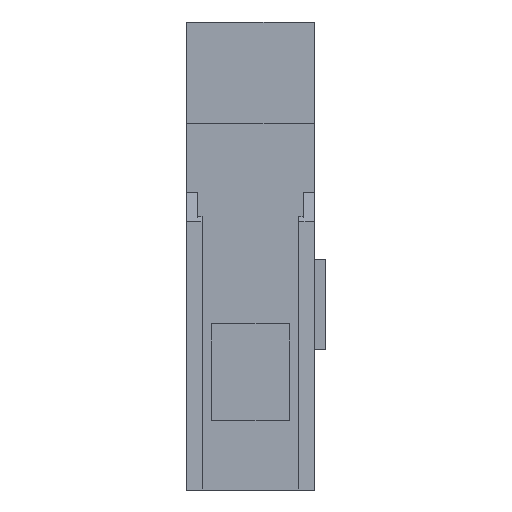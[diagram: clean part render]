
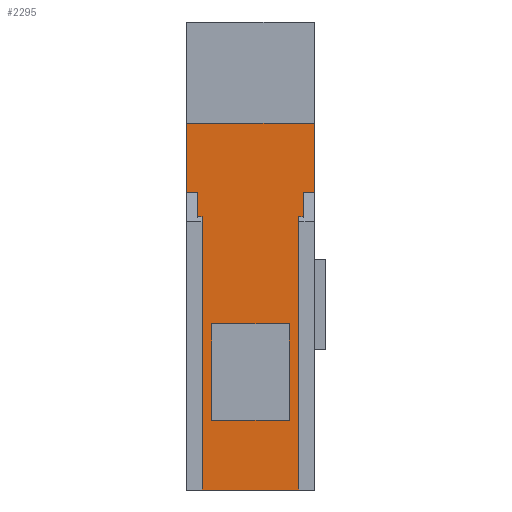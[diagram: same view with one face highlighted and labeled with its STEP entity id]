
A CAD part, front view. The second image highlights one B-rep face of the part: STEP entity #2295.
In plain terms, the highlighted planar face has unit normal (0, -1, 0).
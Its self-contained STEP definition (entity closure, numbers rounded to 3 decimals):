
#8 = VECTOR ( 'NONE', #2726, 1000. ) ;
#9 = ORIENTED_EDGE ( 'NONE', *, *, #2976, .T. ) ;
#97 = FACE_BOUND ( 'NONE', #837, .T. ) ;
#200 = DIRECTION ( 'NONE',  ( 0., -1., 0. ) ) ;
#253 = DIRECTION ( 'NONE',  ( 0., 0., -1. ) ) ;
#262 = ORIENTED_EDGE ( 'NONE', *, *, #793, .T. ) ;
#273 = VERTEX_POINT ( 'NONE', #1612 ) ;
#318 = LINE ( 'NONE', #1744, #3027 ) ;
#366 = CARTESIAN_POINT ( 'NONE',  ( -10.05, -38., 40.5 ) ) ;
#373 = DIRECTION ( 'NONE',  ( 1., 0., 0. ) ) ;
#378 = EDGE_CURVE ( 'NONE', #1263, #2269, #1508, .T. ) ;
#380 = ORIENTED_EDGE ( 'NONE', *, *, #3175, .T. ) ;
#423 = LINE ( 'NONE', #2628, #1257 ) ;
#525 = VERTEX_POINT ( 'NONE', #2949 ) ;
#553 = CARTESIAN_POINT ( 'NONE',  ( -6.65, -38., 9.5 ) ) ;
#582 = LINE ( 'NONE', #1882, #1950 ) ;
#607 = FACE_OUTER_BOUND ( 'NONE', #1517, .T. ) ;
#673 = EDGE_CURVE ( 'NONE', #2993, #2075, #318, .T. ) ;
#731 = VERTEX_POINT ( 'NONE', #2529 ) ;
#742 = LINE ( 'NONE', #553, #2980 ) ;
#793 = EDGE_CURVE ( 'NONE', #1870, #273, #896, .T. ) ;
#837 = EDGE_LOOP ( 'NONE', ( #1801, #2844, #1497, #9 ) ) ;
#838 = CARTESIAN_POINT ( 'NONE',  ( -6.65, -38., 22.6 ) ) ;
#851 = DIRECTION ( 'NONE',  ( 1., 0., 0. ) ) ;
#861 = ORIENTED_EDGE ( 'NONE', *, *, #1581, .T. ) ;
#896 = LINE ( 'NONE', #2819, #1017 ) ;
#908 = EDGE_CURVE ( 'NONE', #525, #2993, #3070, .T. ) ;
#937 = PLANE ( 'NONE',  #2582 ) ;
#944 = VERTEX_POINT ( 'NONE', #2597 ) ;
#949 = VERTEX_POINT ( 'NONE', #366 ) ;
#983 = CARTESIAN_POINT ( 'NONE',  ( 3.85, -38., 9.5 ) ) ;
#1017 = VECTOR ( 'NONE', #1054, 1000. ) ;
#1028 = CARTESIAN_POINT ( 'NONE',  ( 3.85, -38., 22.6 ) ) ;
#1054 = DIRECTION ( 'NONE',  ( 1., 0., 0. ) ) ;
#1149 = ORIENTED_EDGE ( 'NONE', *, *, #3036, .F. ) ;
#1242 = CARTESIAN_POINT ( 'NONE',  ( -10.05, -38., 49.9 ) ) ;
#1257 = VECTOR ( 'NONE', #2321, 1000. ) ;
#1263 = VERTEX_POINT ( 'NONE', #2711 ) ;
#1266 = VERTEX_POINT ( 'NONE', #1490 ) ;
#1317 = VECTOR ( 'NONE', #2928, 1000. ) ;
#1371 = ORIENTED_EDGE ( 'NONE', *, *, #2602, .F. ) ;
#1406 = CARTESIAN_POINT ( 'NONE',  ( -10.05, -38., 40.5 ) ) ;
#1445 = CARTESIAN_POINT ( 'NONE',  ( 5.75, -38., 0. ) ) ;
#1490 = CARTESIAN_POINT ( 'NONE',  ( 7.25, -38., 49.9 ) ) ;
#1497 = ORIENTED_EDGE ( 'NONE', *, *, #1960, .T. ) ;
#1508 = LINE ( 'NONE', #3170, #2243 ) ;
#1517 = EDGE_LOOP ( 'NONE', ( #1371, #1622, #3190, #861, #1149, #3013, #380, #262 ) ) ;
#1519 = CARTESIAN_POINT ( 'NONE',  ( -10.05, -38., 49.9 ) ) ;
#1581 = EDGE_CURVE ( 'NONE', #949, #944, #2096, .T. ) ;
#1596 = CARTESIAN_POINT ( 'NONE',  ( 7.25, -38., 40.5 ) ) ;
#1612 = CARTESIAN_POINT ( 'NONE',  ( 7.25, -38., 40.5 ) ) ;
#1622 = ORIENTED_EDGE ( 'NONE', *, *, #2086, .F. ) ;
#1700 = LINE ( 'NONE', #1519, #2967 ) ;
#1744 = CARTESIAN_POINT ( 'NONE',  ( 3.85, -38., 22.6 ) ) ;
#1762 = DIRECTION ( 'NONE',  ( 1., 0., 0. ) ) ;
#1801 = ORIENTED_EDGE ( 'NONE', *, *, #908, .T. ) ;
#1814 = LINE ( 'NONE', #1406, #1317 ) ;
#1827 = CARTESIAN_POINT ( 'NONE',  ( -10.05, -38., 40.5 ) ) ;
#1835 = DIRECTION ( 'NONE',  ( 1., 0., 0. ) ) ;
#1836 = EDGE_CURVE ( 'NONE', #2775, #949, #1814, .T. ) ;
#1870 = VERTEX_POINT ( 'NONE', #2436 ) ;
#1882 = CARTESIAN_POINT ( 'NONE',  ( 5.75, -38., 0. ) ) ;
#1916 = DIRECTION ( 'NONE',  ( 0., 0., -1. ) ) ;
#1925 = CARTESIAN_POINT ( 'NONE',  ( -10.05, -38., 40.5 ) ) ;
#1950 = VECTOR ( 'NONE', #2141, 1000. ) ;
#1960 = EDGE_CURVE ( 'NONE', #2075, #731, #2316, .T. ) ;
#2075 = VERTEX_POINT ( 'NONE', #2780 ) ;
#2086 = EDGE_CURVE ( 'NONE', #2775, #1266, #1700, .T. ) ;
#2096 = LINE ( 'NONE', #1827, #3167 ) ;
#2141 = DIRECTION ( 'NONE',  ( 0., 0., 1. ) ) ;
#2243 = VECTOR ( 'NONE', #373, 1000. ) ;
#2269 = VERTEX_POINT ( 'NONE', #1445 ) ;
#2295 = ADVANCED_FACE ( 'NONE', ( #607, #97 ), #937, .T. ) ;
#2316 = LINE ( 'NONE', #983, #8 ) ;
#2321 = DIRECTION ( 'NONE',  ( 0., 0., 1. ) ) ;
#2399 = VECTOR ( 'NONE', #2935, 1000. ) ;
#2436 = CARTESIAN_POINT ( 'NONE',  ( 5.75, -38., 40.5 ) ) ;
#2529 = CARTESIAN_POINT ( 'NONE',  ( -6.65, -38., 9.5 ) ) ;
#2544 = DIRECTION ( 'NONE',  ( 0., 0., 1. ) ) ;
#2582 = AXIS2_PLACEMENT_3D ( 'NONE', #1925, #200, #1916 ) ;
#2597 = CARTESIAN_POINT ( 'NONE',  ( -8.55, -38., 40.5 ) ) ;
#2602 = EDGE_CURVE ( 'NONE', #1266, #273, #2918, .T. ) ;
#2628 = CARTESIAN_POINT ( 'NONE',  ( -8.55, -38., 0. ) ) ;
#2711 = CARTESIAN_POINT ( 'NONE',  ( -8.55, -38., 0. ) ) ;
#2726 = DIRECTION ( 'NONE',  ( -1., 0., 0. ) ) ;
#2775 = VERTEX_POINT ( 'NONE', #1242 ) ;
#2780 = CARTESIAN_POINT ( 'NONE',  ( 3.85, -38., 9.5 ) ) ;
#2819 = CARTESIAN_POINT ( 'NONE',  ( -10.05, -38., 40.5 ) ) ;
#2829 = VECTOR ( 'NONE', #851, 1000. ) ;
#2844 = ORIENTED_EDGE ( 'NONE', *, *, #673, .T. ) ;
#2918 = LINE ( 'NONE', #1596, #2399 ) ;
#2928 = DIRECTION ( 'NONE',  ( 0., 0., -1. ) ) ;
#2935 = DIRECTION ( 'NONE',  ( 0., 0., -1. ) ) ;
#2949 = CARTESIAN_POINT ( 'NONE',  ( -6.65, -38., 22.6 ) ) ;
#2967 = VECTOR ( 'NONE', #1762, 1000. ) ;
#2976 = EDGE_CURVE ( 'NONE', #731, #525, #742, .T. ) ;
#2980 = VECTOR ( 'NONE', #2544, 1000. ) ;
#2993 = VERTEX_POINT ( 'NONE', #1028 ) ;
#3013 = ORIENTED_EDGE ( 'NONE', *, *, #378, .T. ) ;
#3027 = VECTOR ( 'NONE', #253, 1000. ) ;
#3036 = EDGE_CURVE ( 'NONE', #1263, #944, #423, .T. ) ;
#3070 = LINE ( 'NONE', #838, #2829 ) ;
#3167 = VECTOR ( 'NONE', #1835, 1000. ) ;
#3170 = CARTESIAN_POINT ( 'NONE',  ( 0., -38., 0. ) ) ;
#3175 = EDGE_CURVE ( 'NONE', #2269, #1870, #582, .T. ) ;
#3190 = ORIENTED_EDGE ( 'NONE', *, *, #1836, .T. ) ;
